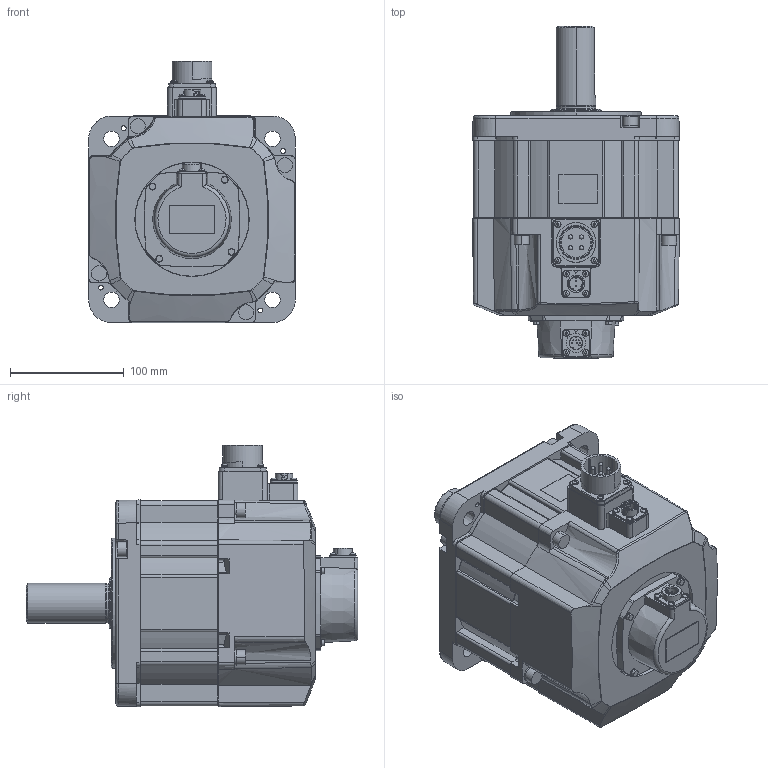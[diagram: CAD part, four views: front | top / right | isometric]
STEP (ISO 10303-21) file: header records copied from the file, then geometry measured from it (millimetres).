
FILE_DESCRIPTION((''),'2;1');
FILE_NAME('ECM-B3M-F21830SS1-4','2019-05-29T',('MIO.CHEN'),(''),'CREO PARAMETRIC BY PTC INC, 2015080','CREO PARAMETRIC BY PTC INC, 2015080','');
FILE_SCHEMA(('CONFIG_CONTROL_DESIGN'));
Length unit declared in the file: millimetre
Products named in the file (1): ECM-B3M-F21830SS1-4
Bounding box: 181.49 x 291.5 x 229.44 mm (x, y, z)
Volume: 5132869.8 mm3; surface area: 240679.8 mm2
Topology: 1 solids, 3 shells, 1212 faces, 3110 edges, 2002 vertices
Faces by surface type: cylinder 513, plane 404, cone 118, bspline 113, torus 47, sphere 13, extrusion 4
Entity records: 43137 total; most frequent: CARTESIAN_POINT 13729, ORIENTED_EDGE 6200, DIRECTION 6156, EDGE_CURVE 3100, AXIS2_PLACEMENT_3D 2384, VERTEX_POINT 2002, VECTOR 1388, LINE 1384
